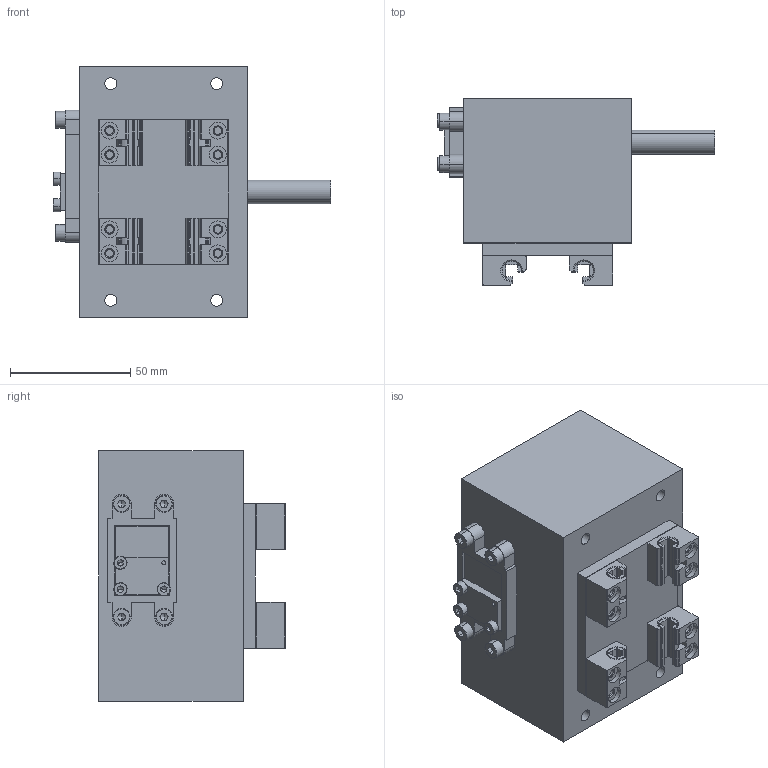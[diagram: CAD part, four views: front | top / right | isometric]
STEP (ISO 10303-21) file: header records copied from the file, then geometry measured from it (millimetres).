
FILE_DESCRIPTION (( 'STEP AP203' ), '1' );
FILE_NAME ('Assem1_motor2_Default_sldprt.STEP', '2020-04-06T12:53:41', ( '' ), ( '' ), 'SwSTEP 2.0', 'SolidWorks 2018', '' );
FILE_SCHEMA (( 'CONFIG_CONTROL_DESIGN' ));
Length unit declared in the file: millimetre
Products named in the file (1): Assem1_motor2_Default_sldprt
Bounding box: 115.5 x 77.5 x 104 mm (x, y, z)
Volume: 230366.9 mm3; surface area: 97230.7 mm2
Topology: 26 solids, 30 shells, 1547 faces, 4013 edges, 2596 vertices
Faces by surface type: plane 765, cylinder 588, cone 158, torus 28, bspline 8
Entity records: 48201 total; most frequent: CARTESIAN_POINT 9043, DIRECTION 8420, ORIENTED_EDGE 7998, EDGE_CURVE 3999, AXIS2_PLACEMENT_3D 3045, VERTEX_POINT 2596, VECTOR 2330, LINE 2330
